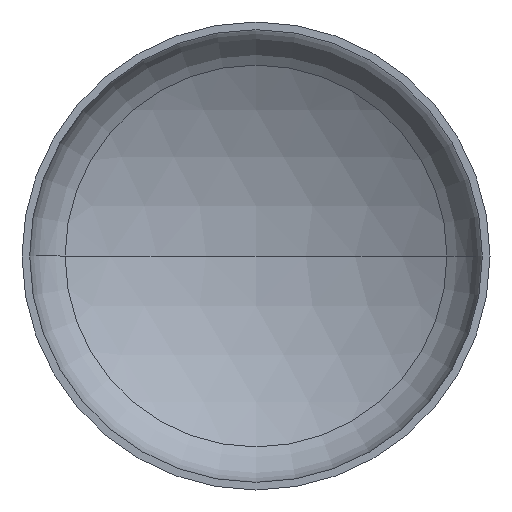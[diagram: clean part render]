
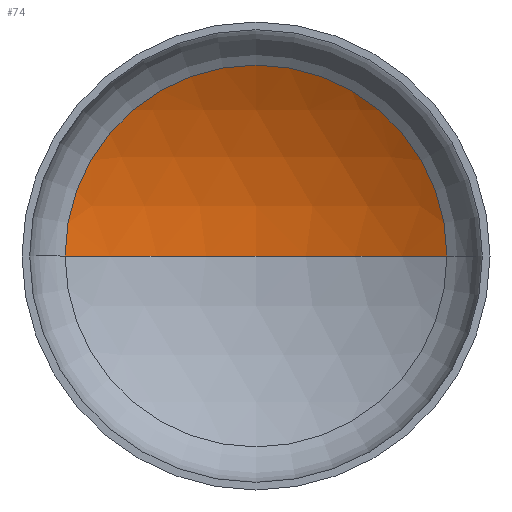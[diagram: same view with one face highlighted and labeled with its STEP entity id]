
A CAD part, front view. The second image highlights one B-rep face of the part: STEP entity #74.
In plain terms, the highlighted spherical face has radius 880 mm.
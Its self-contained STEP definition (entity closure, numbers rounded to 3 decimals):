
#3 = VERTEX_POINT ( 'NONE', #246 ) ;
#7 = ORIENTED_EDGE ( 'NONE', *, *, #338, .T. ) ;
#9 = AXIS2_PLACEMENT_3D ( 'NONE', #269, #270, #76 ) ;
#20 = EDGE_LOOP ( 'NONE', ( #30, #7, #143 ) ) ;
#26 = AXIS2_PLACEMENT_3D ( 'NONE', #225, #168, #335 ) ;
#30 = ORIENTED_EDGE ( 'NONE', *, *, #378, .F. ) ;
#37 = AXIS2_PLACEMENT_3D ( 'NONE', #112, #117, #155 ) ;
#72 = VERTEX_POINT ( 'NONE', #272 ) ;
#74 = ADVANCED_FACE ( 'NONE', ( #166 ), #331, .F. ) ;
#76 = DIRECTION ( 'NONE',  ( 1., 0., 0. ) ) ;
#79 = AXIS2_PLACEMENT_3D ( 'NONE', #244, #355, #243 ) ;
#112 = CARTESIAN_POINT ( 'NONE',  ( 0., 201.244, 0. ) ) ;
#117 = DIRECTION ( 'NONE',  ( 0., -1., 0. ) ) ;
#135 = VERTEX_POINT ( 'NONE', #222 ) ;
#143 = ORIENTED_EDGE ( 'NONE', *, *, #332, .T. ) ;
#155 = DIRECTION ( 'NONE',  ( 1., 0., 0. ) ) ;
#166 = FACE_OUTER_BOUND ( 'NONE', #20, .T. ) ;
#168 = DIRECTION ( 'NONE',  ( 0., 0., -1. ) ) ;
#222 = CARTESIAN_POINT ( 'NONE',  ( -448.676, 201.244, 0. ) ) ;
#225 = CARTESIAN_POINT ( 'NONE',  ( 0., -555.783, 0. ) ) ;
#243 = DIRECTION ( 'NONE',  ( -1., 0., 0. ) ) ;
#244 = CARTESIAN_POINT ( 'NONE',  ( 0., -555.783, 0. ) ) ;
#246 = CARTESIAN_POINT ( 'NONE',  ( 0., 324.217, 0. ) ) ;
#269 = CARTESIAN_POINT ( 'NONE',  ( 0., -555.783, 0. ) ) ;
#270 = DIRECTION ( 'NONE',  ( 0., 0., 1. ) ) ;
#272 = CARTESIAN_POINT ( 'NONE',  ( 448.676, 201.244, 0. ) ) ;
#277 = CIRCLE ( 'NONE', #26, 880. ) ;
#331 = SPHERICAL_SURFACE ( 'NONE', #79, 880. ) ;
#332 = EDGE_CURVE ( 'NONE', #72, #135, #352, .T. ) ;
#335 = DIRECTION ( 'NONE',  ( -1., 0., 0. ) ) ;
#338 = EDGE_CURVE ( 'NONE', #3, #72, #277, .T. ) ;
#352 = CIRCLE ( 'NONE', #37, 448.676 ) ;
#355 = DIRECTION ( 'NONE',  ( 0., 0., -1. ) ) ;
#378 = EDGE_CURVE ( 'NONE', #3, #135, #389, .T. ) ;
#389 = CIRCLE ( 'NONE', #9, 880. ) ;
